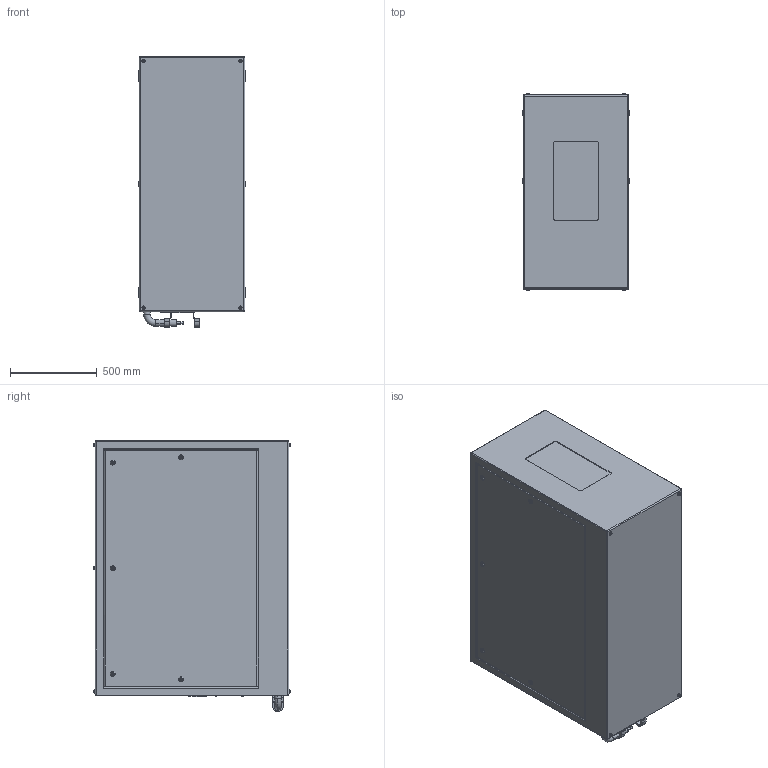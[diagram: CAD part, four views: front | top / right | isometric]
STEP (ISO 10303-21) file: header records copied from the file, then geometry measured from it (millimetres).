
FILE_DESCRIPTION (( 'STEP AP214' ), '1' );
FILE_NAME ('Oasis 59.314.P R02.STEP', '2022-08-27T16:10:30', ( '' ), ( '' ), 'SwSTEP 2.0', 'SolidWorks 2020', '' );
FILE_SCHEMA (( 'AUTOMOTIVE_DESIGN' ));
Length unit declared in the file: inch
Products named in the file (1): Oasis 59.314.P R02
Bounding box: 622.3 x 1134.87 x 1562.1 mm (x, y, z)
Volume: 1002545102.9 mm3; surface area: 7027298.2 mm2
Topology: 2 solids, 8 shells, 555 faces, 1267 edges, 804 vertices
Faces by surface type: plane 307, cylinder 186, torus 54, bspline 8
Entity records: 21408 total; most frequent: CARTESIAN_POINT 3139, DIRECTION 2767, ORIENTED_EDGE 2518, EDGE_CURVE 1259, AXIS2_PLACEMENT_3D 992, VERTEX_POINT 804, LINE 783, VECTOR 783
